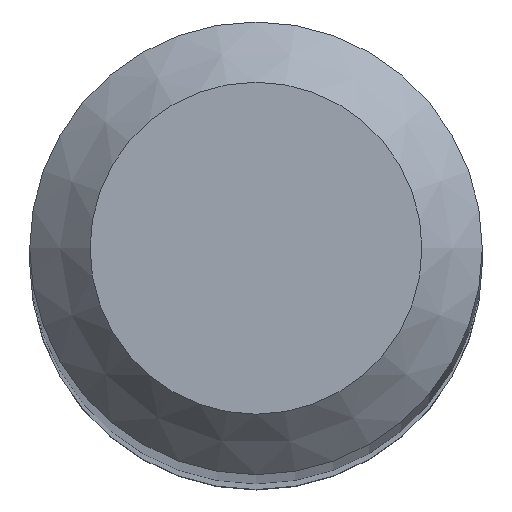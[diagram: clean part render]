
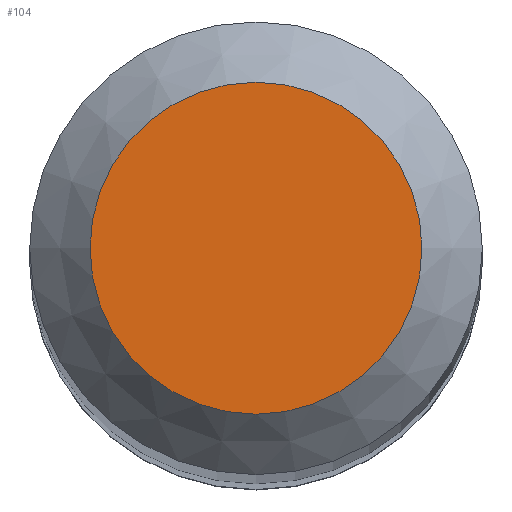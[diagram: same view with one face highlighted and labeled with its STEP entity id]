
A CAD part, top view. The second image highlights one B-rep face of the part: STEP entity #104.
In plain terms, the highlighted planar face has unit normal (0, 0, 1).
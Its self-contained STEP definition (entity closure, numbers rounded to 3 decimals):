
#88=CARTESIAN_POINT('',(2.2,0.0,120.0));
#89=DIRECTION('',(0.0,0.0,1.0));
#90=DIRECTION('',(1.0,0.0,0.0));
#91=AXIS2_PLACEMENT_3D('',#88,#89,#90);
#92=PLANE('',#91);
#93=CARTESIAN_POINT('',(-2.2,0.0,120.0));
#94=VERTEX_POINT('',#93);
#95=CARTESIAN_POINT('',(0.0,0.0,120.0));
#96=DIRECTION('',(0.0,0.0,-1.0));
#97=DIRECTION('',(-1.0,0.0,0.0));
#98=AXIS2_PLACEMENT_3D('',#95,#96,#97);
#99=CIRCLE('',#98,2.2);
#100=EDGE_CURVE('',#94,#94,#99,.T.);
#101=ORIENTED_EDGE('',*,*,#100,.F.);
#102=EDGE_LOOP('',(#101));
#103=FACE_OUTER_BOUND('',#102,.T.);
#104=ADVANCED_FACE('',(#103),#92,.T.);
